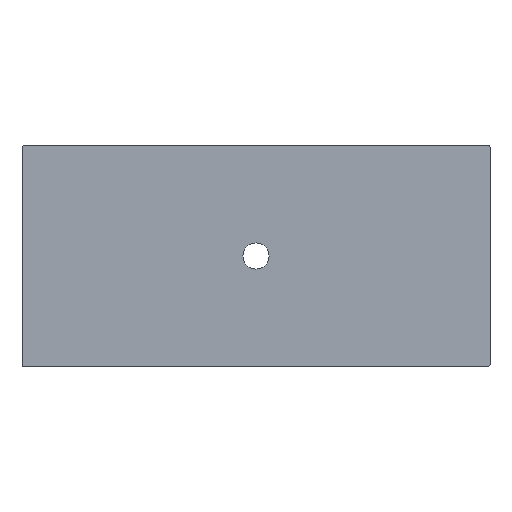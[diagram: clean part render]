
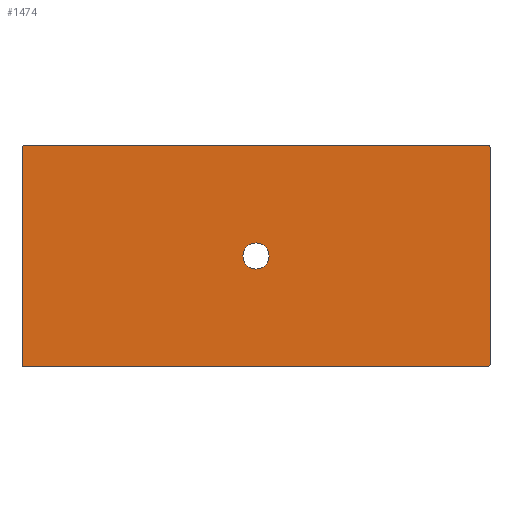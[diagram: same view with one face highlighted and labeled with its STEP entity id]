
A CAD part, front view. The second image highlights one B-rep face of the part: STEP entity #1474.
In plain terms, the highlighted planar face has unit normal (0, -1, 0).
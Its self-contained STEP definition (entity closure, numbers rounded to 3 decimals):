
#8 = EDGE_CURVE ( 'NONE', #3566, #1254, #4032, .T. ) ;
#87 = CARTESIAN_POINT ( 'NONE',  ( -850., 0., 397.929 ) ) ;
#105 = ORIENTED_EDGE ( 'NONE', *, *, #863, .F. ) ;
#135 = EDGE_CURVE ( 'NONE', #1254, #2846, #3755, .T. ) ;
#150 = CARTESIAN_POINT ( 'NONE',  ( -850., 0., -395.001 ) ) ;
#172 = CARTESIAN_POINT ( 'NONE',  ( 850., 0., -395.001 ) ) ;
#190 = LINE ( 'NONE', #3372, #4131 ) ;
#299 = DIRECTION ( 'NONE',  ( 0., 0., 1. ) ) ;
#322 = DIRECTION ( 'NONE',  ( 0., 1., 0. ) ) ;
#361 = CARTESIAN_POINT ( 'NONE',  ( -847.929, 0., 400. ) ) ;
#460 = EDGE_CURVE ( 'NONE', #636, #615, #1519, .T. ) ;
#615 = VERTEX_POINT ( 'NONE', #3714 ) ;
#636 = VERTEX_POINT ( 'NONE', #807 ) ;
#652 = EDGE_CURVE ( 'NONE', #2272, #636, #2710, .T. ) ;
#662 = DIRECTION ( 'NONE',  ( 0., 0., 1. ) ) ;
#700 = ORIENTED_EDGE ( 'NONE', *, *, #3641, .F. ) ;
#726 = FACE_BOUND ( 'NONE', #4138, .T. ) ;
#807 = CARTESIAN_POINT ( 'NONE',  ( 845.001, 0., -400. ) ) ;
#863 = EDGE_CURVE ( 'NONE', #3330, #2272, #190, .T. ) ;
#896 = ORIENTED_EDGE ( 'NONE', *, *, #8, .F. ) ;
#1046 = ORIENTED_EDGE ( 'NONE', *, *, #2860, .F. ) ;
#1085 = CARTESIAN_POINT ( 'NONE',  ( -850., 0., 395.001 ) ) ;
#1095 = DIRECTION ( 'NONE',  ( 0., 0., -1. ) ) ;
#1254 = VERTEX_POINT ( 'NONE', #2958 ) ;
#1257 = LINE ( 'NONE', #3209, #1534 ) ;
#1378 = CARTESIAN_POINT ( 'NONE',  ( -845.001, 0., 400. ) ) ;
#1381 = VERTEX_POINT ( 'NONE', #3351 ) ;
#1474 = ADVANCED_FACE ( 'NONE', ( #1596, #726 ), #2896, .F. ) ;
#1519 = LINE ( 'NONE', #2820, #3968 ) ;
#1534 = VECTOR ( 'NONE', #299, 1000. ) ;
#1568 = VERTEX_POINT ( 'NONE', #150 ) ;
#1596 = FACE_OUTER_BOUND ( 'NONE', #2230, .T. ) ;
#1615 = CARTESIAN_POINT ( 'NONE',  ( 0., 0., 0. ) ) ;
#1673 = CARTESIAN_POINT ( 'NONE',  ( 850., 0., 397.929 ) ) ;
#1872 = VECTOR ( 'NONE', #3056, 1000. ) ;
#1983 =( BOUNDED_CURVE ( )  B_SPLINE_CURVE ( 3, ( #2890, #3923, #1673, #2653 ),
 .UNSPECIFIED., .F., .F. ) 
 B_SPLINE_CURVE_WITH_KNOTS ( ( 4, 4 ),
 ( 5.498, 7.068 ),
 .UNSPECIFIED. ) 
 CURVE ( )  GEOMETRIC_REPRESENTATION_ITEM ( )  RATIONAL_B_SPLINE_CURVE ( ( 1., 0.805, 0.805, 1. ) ) 
 REPRESENTATION_ITEM ( '' )  );
#2077 = CARTESIAN_POINT ( 'NONE',  ( 850., 0., -395.001 ) ) ;
#2105 = DIRECTION ( 'NONE',  ( 0., -1., 0. ) ) ;
#2142 = CARTESIAN_POINT ( 'NONE',  ( 847.929, 0., -400. ) ) ;
#2230 = EDGE_LOOP ( 'NONE', ( #3944, #105, #1046, #2427, #896, #2910, #700, #2998 ) ) ;
#2235 = CARTESIAN_POINT ( 'NONE',  ( -845.001, 0., -400. ) ) ;
#2272 = VERTEX_POINT ( 'NONE', #2077 ) ;
#2350 = AXIS2_PLACEMENT_3D ( 'NONE', #2406, #2105, #1095 ) ;
#2406 = CARTESIAN_POINT ( 'NONE',  ( 0., 0., 0. ) ) ;
#2427 = ORIENTED_EDGE ( 'NONE', *, *, #135, .F. ) ;
#2511 = CARTESIAN_POINT ( 'NONE',  ( -850., 0., 395.001 ) ) ;
#2534 = CARTESIAN_POINT ( 'NONE',  ( -850., 0., -397.929 ) ) ;
#2631 = CARTESIAN_POINT ( 'NONE',  ( 845.001, 0., 400. ) ) ;
#2653 = CARTESIAN_POINT ( 'NONE',  ( 850., 0., 395.001 ) ) ;
#2710 =( BOUNDED_CURVE ( )  B_SPLINE_CURVE ( 3, ( #172, #3078, #2142, #2761 ),
 .UNSPECIFIED., .F., .T. ) 
 B_SPLINE_CURVE_WITH_KNOTS ( ( 4, 4 ),
 ( 5.498, 7.068 ),
 .UNSPECIFIED. ) 
 CURVE ( )  GEOMETRIC_REPRESENTATION_ITEM ( )  RATIONAL_B_SPLINE_CURVE ( ( 1., 0.805, 0.805, 1. ) ) 
 REPRESENTATION_ITEM ( '' )  );
#2757 = CARTESIAN_POINT ( 'NONE',  ( 0., 0., 400. ) ) ;
#2759 = CIRCLE ( 'NONE', #2350, 47.5 ) ;
#2761 = CARTESIAN_POINT ( 'NONE',  ( 845.001, 0., -400. ) ) ;
#2820 = CARTESIAN_POINT ( 'NONE',  ( 0., 0., -400. ) ) ;
#2846 = VERTEX_POINT ( 'NONE', #2631 ) ;
#2860 = EDGE_CURVE ( 'NONE', #2846, #3330, #1983, .T. ) ;
#2890 = CARTESIAN_POINT ( 'NONE',  ( 845.001, 0., 400. ) ) ;
#2896 = PLANE ( 'NONE',  #3792 ) ;
#2910 = ORIENTED_EDGE ( 'NONE', *, *, #4072, .F. ) ;
#2958 = CARTESIAN_POINT ( 'NONE',  ( -845.001, 0., 400. ) ) ;
#2998 = ORIENTED_EDGE ( 'NONE', *, *, #460, .F. ) ;
#3056 = DIRECTION ( 'NONE',  ( 1., 0., 0. ) ) ;
#3078 = CARTESIAN_POINT ( 'NONE',  ( 850., 0., -397.929 ) ) ;
#3190 = CARTESIAN_POINT ( 'NONE',  ( -847.929, 0., -400. ) ) ;
#3209 = CARTESIAN_POINT ( 'NONE',  ( -850., 0., 0. ) ) ;
#3284 =( BOUNDED_CURVE ( )  B_SPLINE_CURVE ( 3, ( #2235, #3190, #2534, #4097 ),
 .UNSPECIFIED., .F., .T. ) 
 B_SPLINE_CURVE_WITH_KNOTS ( ( 4, 4 ),
 ( 5.498, 7.068 ),
 .UNSPECIFIED. ) 
 CURVE ( )  GEOMETRIC_REPRESENTATION_ITEM ( )  RATIONAL_B_SPLINE_CURVE ( ( 1., 0.805, 0.805, 1. ) ) 
 REPRESENTATION_ITEM ( '' )  );
#3330 = VERTEX_POINT ( 'NONE', #3977 ) ;
#3351 = CARTESIAN_POINT ( 'NONE',  ( 0., 0., -47.5 ) ) ;
#3353 = DIRECTION ( 'NONE',  ( 0., 0., -1. ) ) ;
#3372 = CARTESIAN_POINT ( 'NONE',  ( 850., 0., 0. ) ) ;
#3397 = EDGE_CURVE ( 'NONE', #1381, #1381, #2759, .T. ) ;
#3566 = VERTEX_POINT ( 'NONE', #2511 ) ;
#3591 = ORIENTED_EDGE ( 'NONE', *, *, #3397, .F. ) ;
#3641 = EDGE_CURVE ( 'NONE', #615, #1568, #3284, .T. ) ;
#3714 = CARTESIAN_POINT ( 'NONE',  ( -845.001, 0., -400. ) ) ;
#3755 = LINE ( 'NONE', #2757, #1872 ) ;
#3792 = AXIS2_PLACEMENT_3D ( 'NONE', #1615, #322, #662 ) ;
#3923 = CARTESIAN_POINT ( 'NONE',  ( 847.929, 0., 400. ) ) ;
#3944 = ORIENTED_EDGE ( 'NONE', *, *, #652, .F. ) ;
#3968 = VECTOR ( 'NONE', #4111, 1000. ) ;
#3977 = CARTESIAN_POINT ( 'NONE',  ( 850., 0., 395.001 ) ) ;
#4032 =( BOUNDED_CURVE ( )  B_SPLINE_CURVE ( 3, ( #1085, #87, #361, #1378 ),
 .UNSPECIFIED., .F., .F. ) 
 B_SPLINE_CURVE_WITH_KNOTS ( ( 4, 4 ),
 ( 5.498, 7.068 ),
 .UNSPECIFIED. ) 
 CURVE ( )  GEOMETRIC_REPRESENTATION_ITEM ( )  RATIONAL_B_SPLINE_CURVE ( ( 1., 0.805, 0.805, 1. ) ) 
 REPRESENTATION_ITEM ( '' )  );
#4072 = EDGE_CURVE ( 'NONE', #1568, #3566, #1257, .T. ) ;
#4097 = CARTESIAN_POINT ( 'NONE',  ( -850., 0., -395.001 ) ) ;
#4111 = DIRECTION ( 'NONE',  ( -1., 0., 0. ) ) ;
#4131 = VECTOR ( 'NONE', #3353, 1000. ) ;
#4138 = EDGE_LOOP ( 'NONE', ( #3591 ) ) ;
